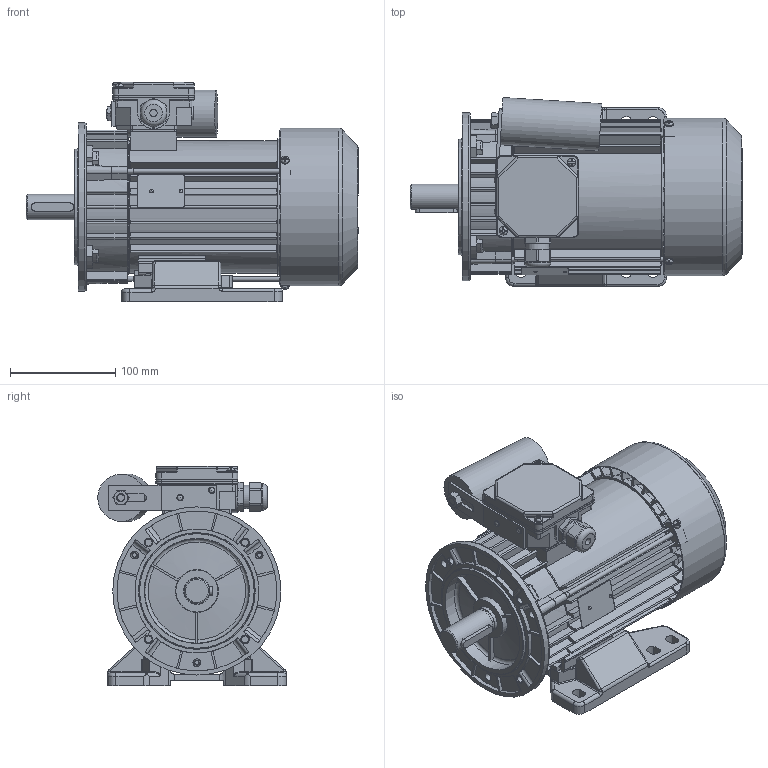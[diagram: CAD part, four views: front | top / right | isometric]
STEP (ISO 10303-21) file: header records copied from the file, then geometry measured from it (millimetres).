
FILE_DESCRIPTION( ( 'Unknown' ), '1' );
FILE_NAME( 'G:/Poczta Tk-1/STP/w.m.90/SEh90/SELh90-.S1.stp', 'Unknown', ( 'K. Szlosek' ), ( 'BESEL S.A.' ), 'PSStep 17.0.49', 'Unknown', ' ' );
FILE_SCHEMA( ( 'AUTOMOTIVE_DESIGN { 1 0 10303 214 1 1 1 1 }' ) );
Length unit declared in the file: millimetre
Products named in the file (47): skrznka zaciskowa jednofazowa ; K4-2820 Uszczelka nr 2 Sh71,80; K2-1131 Podstawa skrzynki zaciskowej jednofazowa; K4-2999 Uchwyt kondensatora; Nit 4x12 po skróceniu; nakrętka M8; K4-0898 Tulejka uszczelniająca; Dławnica M20x1,5; K2-0860 Pokrywka skrzynki zaciskowej; Assem1; K1-1257 Kadłub S(E,M)h80-C i D; K2-1715 Przewietrznik; Wpust A8x7x40; K3-7808 Wał Sh90-.S; Wkręt samogwintujący M4x12; Tabliczka znamionowa 32x44; Kondensator zb 25-31,5uF Comar; K4-4489 Osłona przewietrznika Sh80,90-A,C; K4-2320 Uszczelka nr 1 Sh71,80; K2-2027 Tarcza łożyskowa P S(E,M)h80-.A,C; Wkręt samogwintujący M4x8; Łożysko 6205; Łożysko 6204; Śruba ściągająca E_M5x168; Nitokołek A 2x6; K3-7774 Tarcza Kołnierzowa 90 B14_1 Sh  ; K1-1130 Łapa wymiar 90
Assembly tree (53 placements, depth 3):
  Assem1
    K1-1257 Kadłub S(E,M)h80-C i D
    K2-1715 Przewietrznik
    Wpust A8x7x40
    K3-7808 Wał Sh90-.S
    Wkręt samogwintujący M4x12  x2
    Tabliczka znamionowa 32x44
    Kondensator zb 25-31,5uF Comar
    K4-4489 Osłona przewietrznika Sh80,90-A,C
    K4-2320 Uszczelka nr 1 Sh71,80
    K2-2027 Tarcza łożyskowa P S(E,M)h80-.A,C
    Wkręt samogwintujący M4x8  x3
    Łożysko 6205
    Łożysko 6205
    Łożysko 6205
    Łożysko 6205
    Łożysko 6205
    Łożysko 6205
    Łożysko 6205
    Łożysko 6205
    Łożysko 6205
    Łożysko 6205
    Łożysko 6205
    Łożysko 6205
    Łożysko 6204
    Łożysko 6204
    Łożysko 6204
    Łożysko 6204
    Łożysko 6204
    Łożysko 6204
    Łożysko 6204
    Łożysko 6204
    Łożysko 6204
    Łożysko 6204
    Śruba ściągająca E_M5x168  x3
    Nitokołek A 2x6  x2
    K3-7774 Tarcza Kołnierzowa 90 B14_1 Sh  
    K1-1130 Łapa wymiar 90
    skrznka zaciskowa jednofazowa 
      K4-2820 Uszczelka nr 2 Sh71,80
      K2-1131 Podstawa skrzynki zaciskowej jednofazowa
      K4-2999 Uchwyt kondensatora
      Nit 4x12 po skróceniu  x2
      nakrętka M8
      K4-0898 Tulejka uszczelniająca
      Dławnica M20x1,5
      K2-0860 Pokrywka skrzynki zaciskowej
Bounding box: 315.8 x 179.3 x 208.5 mm (x, y, z)
Volume: 1287189.3 mm3; surface area: 712640.6 mm2
Topology: 52 solids, 70 shells, 3278 faces, 9055 edges, 5854 vertices
Faces by surface type: plane 1644, cylinder 1113, cone 177, bspline 153, torus 139, sphere 52
Full cylindrical faces by diameter (mm): 2 x2, 2.4 x2, 3 x2, 3.7 x11, 4 x7, 4.134 x3, 4.3 x2, 4.5 x3, 4.6 x3, 4.8 x4, 5 x7, 5.5 x3, 6 x2, 6.5 x5, 6.647 x5, 7 x1, 8 x10, 10 x2, 18.376 x1, 18.38 x1, 19.3 x1, 19.5 x2, 19.6 x1, 19.9 x1, 20 x3, 20.4 x1, 22.3 x1, 23.6 x1, 24 x1, 24.6 x1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
Entity records: 149129 total; most frequent: CARTESIAN_POINT 45799, ORIENTED_EDGE 16494, DIRECTION 16318, EDGE_CURVE 8247, AXIS2_PLACEMENT_3D 5904, VERTEX_POINT 5562, LINE 4510, VECTOR 4510
